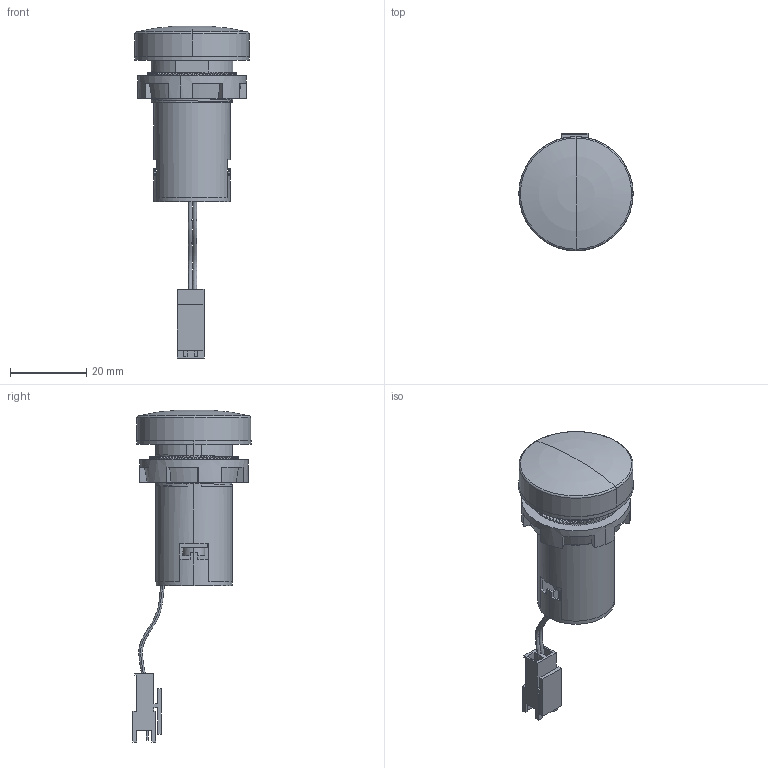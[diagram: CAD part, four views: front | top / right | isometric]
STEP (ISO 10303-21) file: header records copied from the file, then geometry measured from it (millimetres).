
FILE_DESCRIPTION (( 'STEP AP214' ), '1' );
FILE_NAME ('朊22-V霖5.STEP', '2019-05-13T09:16:10', ( '' ), ( '' ), 'SwSTEP 2.0', 'SolidWorks 2015', '' );
FILE_SCHEMA (( 'AUTOMOTIVE_DESIGN' ));
Length unit declared in the file: millimetre
Products named in the file (5): êðûøêà_00; 冓踖樦 1_00; 扻錪犩; 朊22-VM5_膰豵鵨; 朊22-V霖5
Assembly tree (4 placements, depth 2):
  朊22-V霖5
    朊22-VM5_膰豵鵨
    êðûøêà_00
    扻錪犩
    冓踖樦 1_00
Bounding box: 30 x 31 x 87 mm (x, y, z)
Volume: 14313.1 mm3; surface area: 12288.8 mm2
Topology: 4 solids, 6 shells, 991 faces, 2658 edges, 1741 vertices
Faces by surface type: plane 707, bspline 136, cylinder 130, cone 12, torus 6
Entity records: 50369 total; most frequent: CARTESIAN_POINT 23517, ORIENTED_EDGE 5308, DIRECTION 3856, EDGE_CURVE 2654, VERTEX_POINT 1741, LINE 1572, VECTOR 1572, AXIS2_PLACEMENT_3D 1142
